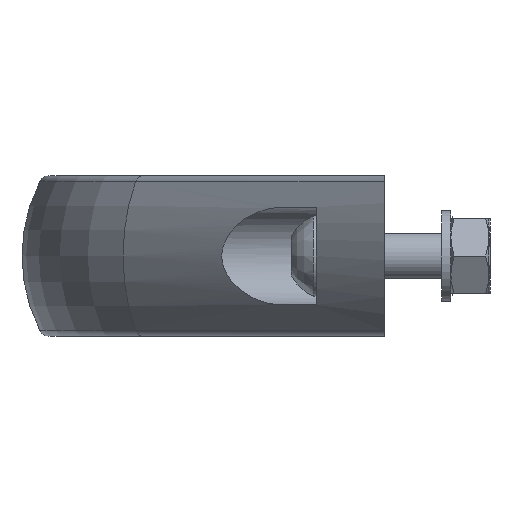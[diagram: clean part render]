
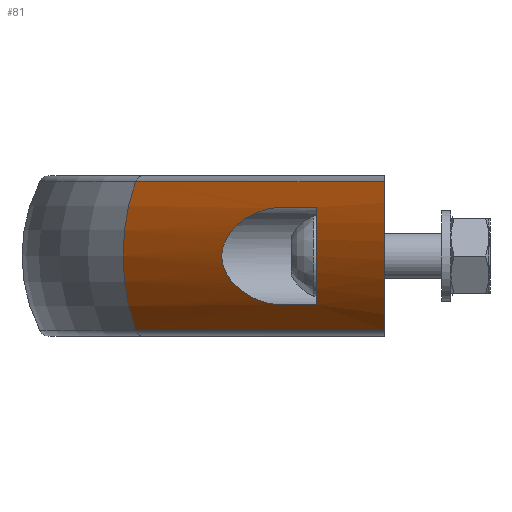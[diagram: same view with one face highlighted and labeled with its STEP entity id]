
A CAD part, left-side view. The second image highlights one B-rep face of the part: STEP entity #81.
In plain terms, the highlighted cylindrical face has radius 28.5 mm (diameter 57 mm), a partial arc.
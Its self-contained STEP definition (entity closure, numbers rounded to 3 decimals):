
#81 = ADVANCED_FACE( '', ( #217, #218 ), #219, .T. );
#217 = FACE_OUTER_BOUND( '', #510, .T. );
#218 = FACE_BOUND( '', #511, .T. );
#219 = CYLINDRICAL_SURFACE( '', #512, 28.5 );
#510 = EDGE_LOOP( '', ( #925, #926, #927, #928 ) );
#511 = EDGE_LOOP( '', ( #929, #930, #931, #932 ) );
#512 = AXIS2_PLACEMENT_3D( '', #933, #934, #935 );
#925 = ORIENTED_EDGE( '', *, *, #1792, .F. );
#926 = ORIENTED_EDGE( '', *, *, #1793, .T. );
#927 = ORIENTED_EDGE( '', *, *, #1794, .F. );
#928 = ORIENTED_EDGE( '', *, *, #1789, .F. );
#929 = ORIENTED_EDGE( '', *, *, #1795, .F. );
#930 = ORIENTED_EDGE( '', *, *, #1796, .F. );
#931 = ORIENTED_EDGE( '', *, *, #1797, .F. );
#932 = ORIENTED_EDGE( '', *, *, #1798, .F. );
#933 = CARTESIAN_POINT( '', ( -138.074, -33.652, 0. ) );
#934 = DIRECTION( '', ( -0.707, -0.707, 0. ) );
#935 = DIRECTION( '', ( -0.707, 0.707, 0. ) );
#1789 = EDGE_CURVE( '', #2083, #2086, #2087, .T. );
#1792 = EDGE_CURVE( '', #2091, #2083, #2092, .T. );
#1793 = EDGE_CURVE( '', #2091, #2093, #2094, .T. );
#1794 = EDGE_CURVE( '', #2086, #2093, #2095, .T. );
#1795 = EDGE_CURVE( '', #2096, #2097, #2098, .F. );
#1796 = EDGE_CURVE( '', #2099, #2096, #2100, .T. );
#1797 = EDGE_CURVE( '', #2101, #2099, #2102, .T. );
#1798 = EDGE_CURVE( '', #2097, #2101, #2103, .T. );
#2083 = VERTEX_POINT( '', #2632 );
#2086 = VERTEX_POINT( '', #2635 );
#2087 = LINE( '', #2636, #2637 );
#2091 = VERTEX_POINT( '', #2642 );
#2092 = ELLIPSE( '', #2643, 40.305, 28.5 );
#2093 = VERTEX_POINT( '', #2644 );
#2094 = LINE( '', #2645, #2646 );
#2095 = CIRCLE( '', #2647, 28.5 );
#2096 = VERTEX_POINT( '', #2648 );
#2097 = VERTEX_POINT( '', #2649 );
#2098 = LINE( '', #2650, #2651 );
#2099 = VERTEX_POINT( '', #2652 );
#2100 = B_SPLINE_CURVE_WITH_KNOTS( '', 3, ( #2653, #2654, #2655, #2656, #2657, #2658, #2659, #2660, #2661, #2662, #2663, #2664, #2665, #2666, #2667, #2668, #2669, #2670, #2671, #2672, #2673, #2674, #2675, #2676, #2677, #2678, #2679, #2680, #2681, #2682, #2683, #2684, #2685, #2686, #2687, #2688, #2689, #2690, #2691, #2692, #2693, #2694, #2695, #2696, #2697, #2698, #2699, #2700, #2701, #2702, #2703, #2704, #2705, #2706 ), .UNSPECIFIED., .F., .F., ( 4, 2, 2, 2, 2, 2, 2, 2, 2, 2, 2, 2, 2, 2, 2, 2, 2, 2, 2, 2, 2, 2, 2, 2, 2, 2, 4 ), ( 0.011, 0.013, 0.015, 0.017, 0.018, 0.02, 0.021, 0.022, 0.024, 0.025, 0.026, 0.027, 0.028, 0.028, 0.029, 0.031, 0.032, 0.033, 0.034, 0.035, 0.037, 0.038, 0.039, 0.041, 0.044, 0.045, 0.046 ), .UNSPECIFIED. );
#2101 = VERTEX_POINT( '', #2707 );
#2102 = LINE( '', #2708, #2709 );
#2103 = ELLIPSE( '', #2710, 40.305, 28.5 );
#2632 = CARTESIAN_POINT( '', ( -140.359, 0., -12.906 ) );
#2635 = CARTESIAN_POINT( '', ( -97.117, 43.242, -12.906 ) );
#2636 = CARTESIAN_POINT( '', ( -156.042, -15.684, -12.906 ) );
#2637 = VECTOR( '', #3357, 1000. );
#2642 = CARTESIAN_POINT( '', ( -140.359, 0., 12.906 ) );
#2643 = AXIS2_PLACEMENT_3D( '', #3362, #3363, #3364 );
#2644 = CARTESIAN_POINT( '', ( -97.117, 43.242, 12.906 ) );
#2645 = CARTESIAN_POINT( '', ( -156.042, -15.684, 12.906 ) );
#2646 = VECTOR( '', #3365, 1000. );
#2647 = AXIS2_PLACEMENT_3D( '', #3366, #3367, #3368 );
#2648 = CARTESIAN_POINT( '', ( -125., 17.893, -8.5 ) );
#2649 = CARTESIAN_POINT( '', ( -131.093, 11.8, -8.5 ) );
#2650 = CARTESIAN_POINT( '', ( -157.31, -14.416, -8.5 ) );
#2651 = VECTOR( '', #3369, 1000. );
#2652 = CARTESIAN_POINT( '', ( -125., 17.893, 8.5 ) );
#2653 = CARTESIAN_POINT( '', ( -125., 17.893, 8.5 ) );
#2654 = CARTESIAN_POINT( '', ( -124.492, 18.402, 8.5 ) );
#2655 = CARTESIAN_POINT( '', ( -123.997, 18.917, 8.455 ) );
#2656 = CARTESIAN_POINT( '', ( -123.03, 19.958, 8.283 ) );
#2657 = CARTESIAN_POINT( '', ( -122.559, 20.484, 8.157 ) );
#2658 = CARTESIAN_POINT( '', ( -121.866, 21.28, 7.905 ) );
#2659 = CARTESIAN_POINT( '', ( -121.639, 21.546, 7.811 ) );
#2660 = CARTESIAN_POINT( '', ( -121.194, 22.073, 7.604 ) );
#2661 = CARTESIAN_POINT( '', ( -120.977, 22.334, 7.491 ) );
#2662 = CARTESIAN_POINT( '', ( -120.336, 23.114, 7.123 ) );
#2663 = CARTESIAN_POINT( '', ( -119.927, 23.626, 6.84 ) );
#2664 = CARTESIAN_POINT( '', ( -119.34, 24.377, 6.346 ) );
#2665 = CARTESIAN_POINT( '', ( -119.148, 24.624, 6.171 ) );
#2666 = CARTESIAN_POINT( '', ( -118.775, 25.113, 5.794 ) );
#2667 = CARTESIAN_POINT( '', ( -118.592, 25.354, 5.591 ) );
#2668 = CARTESIAN_POINT( '', ( -118.066, 26.055, 4.947 ) );
#2669 = CARTESIAN_POINT( '', ( -117.744, 26.492, 4.47 ) );
#2670 = CARTESIAN_POINT( '', ( -117.319, 27.078, 3.653 ) );
#2671 = CARTESIAN_POINT( '', ( -117.189, 27.259, 3.367 ) );
#2672 = CARTESIAN_POINT( '', ( -116.956, 27.584, 2.766 ) );
#2673 = CARTESIAN_POINT( '', ( -116.854, 27.727, 2.451 ) );
#2674 = CARTESIAN_POINT( '', ( -116.683, 27.969, 1.786 ) );
#2675 = CARTESIAN_POINT( '', ( -116.615, 28.064, 1.44 ) );
#2676 = CARTESIAN_POINT( '', ( -116.547, 28.161, 0.911 ) );
#2677 = CARTESIAN_POINT( '', ( -116.53, 28.186, 0.733 ) );
#2678 = CARTESIAN_POINT( '', ( -116.506, 28.219, 0.372 ) );
#2679 = CARTESIAN_POINT( '', ( -116.5, 28.228, 0.188 ) );
#2680 = CARTESIAN_POINT( '', ( -116.5, 28.228, -0.357 ) );
#2681 = CARTESIAN_POINT( '', ( -116.523, 28.196, -0.715 ) );
#2682 = CARTESIAN_POINT( '', ( -116.612, 28.068, -1.423 ) );
#2683 = CARTESIAN_POINT( '', ( -116.68, 27.973, -1.772 ) );
#2684 = CARTESIAN_POINT( '', ( -116.849, 27.734, -2.435 ) );
#2685 = CARTESIAN_POINT( '', ( -116.952, 27.59, -2.754 ) );
#2686 = CARTESIAN_POINT( '', ( -117.186, 27.263, -3.361 ) );
#2687 = CARTESIAN_POINT( '', ( -117.316, 27.083, -3.646 ) );
#2688 = CARTESIAN_POINT( '', ( -117.596, 26.697, -4.186 ) );
#2689 = CARTESIAN_POINT( '', ( -117.746, 26.491, -4.441 ) );
#2690 = CARTESIAN_POINT( '', ( -118.066, 26.057, -4.924 ) );
#2691 = CARTESIAN_POINT( '', ( -118.235, 25.829, -5.154 ) );
#2692 = CARTESIAN_POINT( '', ( -118.759, 25.131, -5.797 ) );
#2693 = CARTESIAN_POINT( '', ( -119.131, 24.644, -6.17 ) );
#2694 = CARTESIAN_POINT( '', ( -119.72, 23.891, -6.666 ) );
#2695 = CARTESIAN_POINT( '', ( -119.921, 23.636, -6.82 ) );
#2696 = CARTESIAN_POINT( '', ( -120.334, 23.12, -7.109 ) );
#2697 = CARTESIAN_POINT( '', ( -120.547, 22.858, -7.244 ) );
#2698 = CARTESIAN_POINT( '', ( -121.193, 22.071, -7.616 ) );
#2699 = CARTESIAN_POINT( '', ( -121.636, 21.546, -7.821 ) );
#2700 = CARTESIAN_POINT( '', ( -122.548, 20.496, -8.153 ) );
#2701 = CARTESIAN_POINT( '', ( -123.018, 19.972, -8.28 ) );
#2702 = CARTESIAN_POINT( '', ( -123.744, 19.188, -8.41 ) );
#2703 = CARTESIAN_POINT( '', ( -123.991, 18.928, -8.444 ) );
#2704 = CARTESIAN_POINT( '', ( -124.491, 18.408, -8.488 ) );
#2705 = CARTESIAN_POINT( '', ( -124.745, 18.148, -8.5 ) );
#2706 = CARTESIAN_POINT( '', ( -125., 17.893, -8.5 ) );
#2707 = CARTESIAN_POINT( '', ( -131.093, 11.8, 8.5 ) );
#2708 = CARTESIAN_POINT( '', ( -157.31, -14.416, 8.5 ) );
#2709 = VECTOR( '', #3370, 1000. );
#2710 = AXIS2_PLACEMENT_3D( '', #3371, #3372, #3373 );
#3357 = DIRECTION( '', ( 0.707, 0.707, 0. ) );
#3362 = CARTESIAN_POINT( '', ( -104.423, 0., 0. ) );
#3363 = DIRECTION( '', ( 0., -1., 0. ) );
#3364 = DIRECTION( '', ( 1., 0., 0. ) );
#3365 = DIRECTION( '', ( 0.707, 0.707, 0. ) );
#3366 = CARTESIAN_POINT( '', ( -79.149, 25.274, 0. ) );
#3367 = DIRECTION( '', ( 0.707, 0.707, 0. ) );
#3368 = DIRECTION( '', ( 0., 0., -1. ) );
#3369 = DIRECTION( '', ( 0.707, 0.707, 0. ) );
#3370 = DIRECTION( '', ( 0.707, 0.707, 0. ) );
#3371 = CARTESIAN_POINT( '', ( -92.623, 11.8, 0. ) );
#3372 = DIRECTION( '', ( 0., 1., 0. ) );
#3373 = DIRECTION( '', ( 1., 0., 0. ) );
